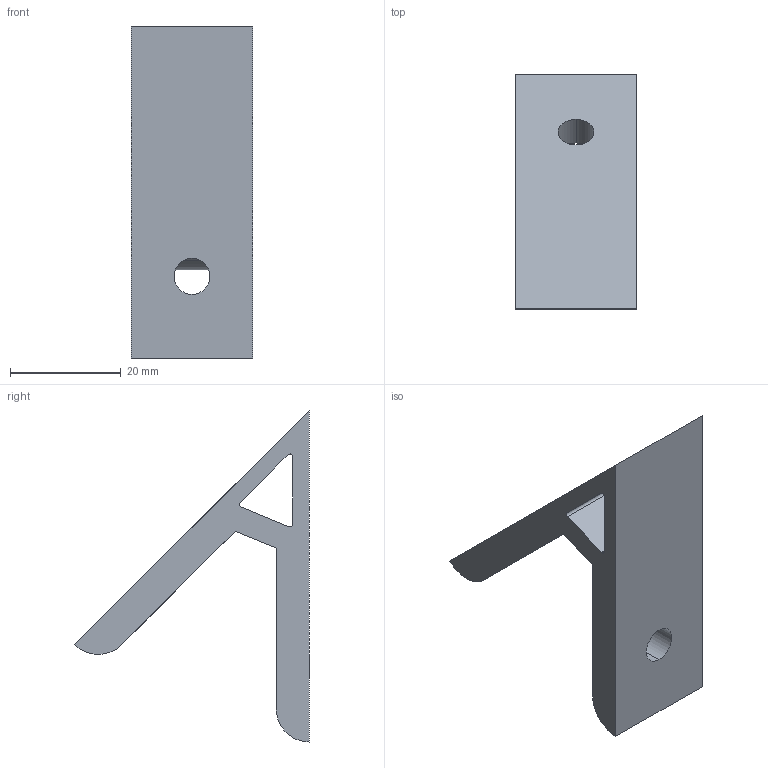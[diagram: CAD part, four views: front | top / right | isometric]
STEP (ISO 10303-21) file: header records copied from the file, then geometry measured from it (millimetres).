
FILE_DESCRIPTION (( 'STEP AP203' ), '1' );
FILE_NAME ('6139.STEP', '2016-06-27T12:24:57', ( 'RosInstal-MKM' ), ( '' ), 'SwSTEP 2.0', 'SolidWorks 2014', '' );
FILE_SCHEMA (( 'CONFIG_CONTROL_DESIGN' ));
Length unit declared in the file: millimetre
Products named in the file (1): 6139
Bounding box: 22 x 42.43 x 60 mm (x, y, z)
Volume: 12497.7 mm3; surface area: 6603.4 mm2
Topology: 1 solids, 1 shells, 20 faces, 54 edges, 36 vertices
Faces by surface type: cylinder 10, plane 10
Entity records: 727 total; most frequent: DIRECTION 116, CARTESIAN_POINT 111, ORIENTED_EDGE 108, EDGE_CURVE 54, AXIS2_PLACEMENT_3D 41, VERTEX_POINT 36, VECTOR 34, LINE 34
